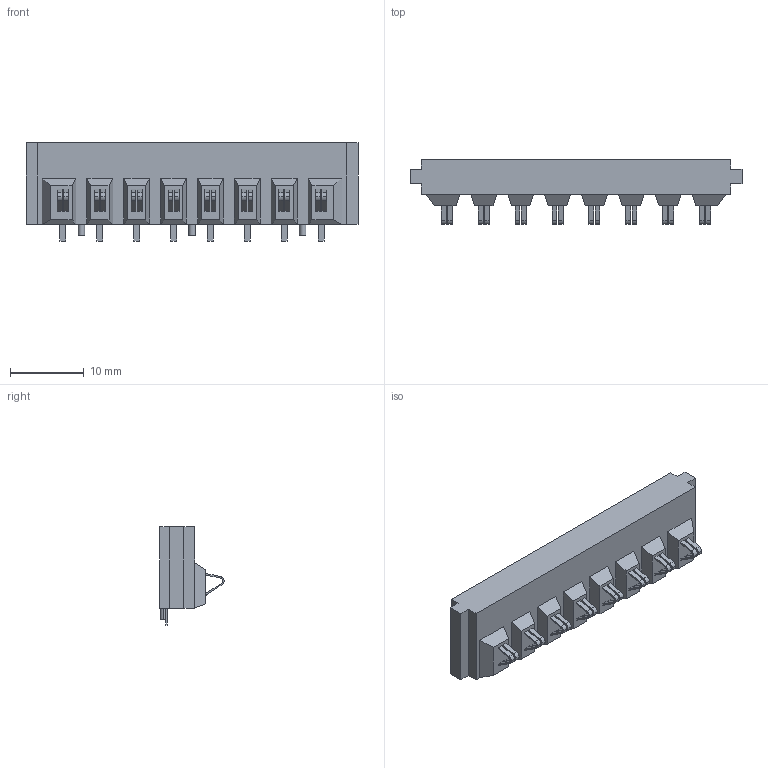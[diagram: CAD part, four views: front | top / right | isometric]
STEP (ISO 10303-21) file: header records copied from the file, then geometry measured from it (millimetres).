
FILE_DESCRIPTION (( 'STEP AP214' ), '1' );
FILE_NAME ('GC11-08-F.STEP', '2026-06-23T02:03:57', ( '' ), ( '' ), 'SwSTEP 2.0', 'SolidWorks 2023', '' );
FILE_SCHEMA (( 'AUTOMOTIVE_DESIGN' ));
Length unit declared in the file: millimetre
Products named in the file (1): GC11-08-F
Bounding box: 45 x 8.7 x 13.3 mm (x, y, z)
Volume: 2464.4 mm3; surface area: 1840.8 mm2
Topology: 1 solids, 1 shells, 279 faces, 782 edges, 516 vertices
Faces by surface type: plane 193, cylinder 86
Entity records: 9027 total; most frequent: CARTESIAN_POINT 1578, ORIENTED_EDGE 1564, DIRECTION 1514, EDGE_CURVE 782, LINE 610, VECTOR 610, VERTEX_POINT 516, AXIS2_PLACEMENT_3D 452
